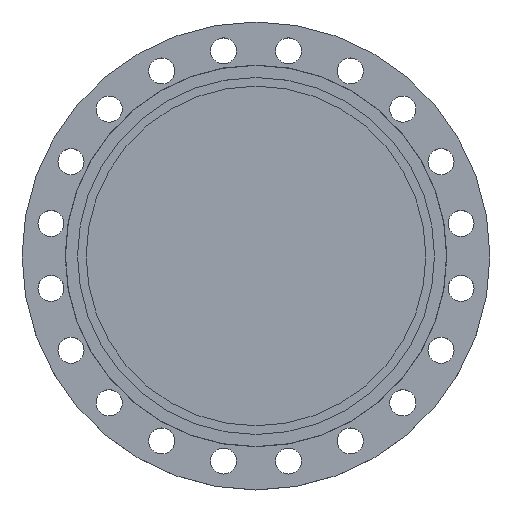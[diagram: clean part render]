
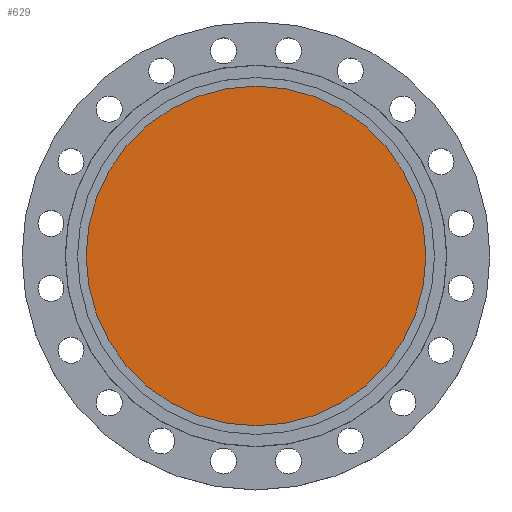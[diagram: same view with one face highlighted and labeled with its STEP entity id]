
A CAD part, top view. The second image highlights one B-rep face of the part: STEP entity #629.
In plain terms, the highlighted planar face has unit normal (0, 0, 1).
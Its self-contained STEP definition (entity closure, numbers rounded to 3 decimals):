
#2 = DIRECTION ( 'NONE',  ( -1., 0., 0. ) ) ;
#139 = FACE_OUTER_BOUND ( 'NONE', #1030, .T. ) ;
#145 = DIRECTION ( 'NONE',  ( -1., 0., 0. ) ) ;
#199 = AXIS2_PLACEMENT_3D ( 'NONE', #1411, #2045, #630 ) ;
#243 = VERTEX_POINT ( 'NONE', #515 ) ;
#515 = CARTESIAN_POINT ( 'NONE',  ( 274., 0., 0. ) ) ;
#629 = ADVANCED_FACE ( 'NONE', ( #139 ), #788, .T. ) ;
#630 = DIRECTION ( 'NONE',  ( 1., 0., 0. ) ) ;
#788 = PLANE ( 'NONE',  #199 ) ;
#857 = CARTESIAN_POINT ( 'NONE',  ( 0., 0., 0. ) ) ;
#968 = CARTESIAN_POINT ( 'NONE',  ( 0., 0., 0. ) ) ;
#1030 = EDGE_LOOP ( 'NONE', ( #1983, #1962 ) ) ;
#1059 = AXIS2_PLACEMENT_3D ( 'NONE', #968, #1600, #145 ) ;
#1124 = CIRCLE ( 'NONE', #1804, 274. ) ;
#1159 = CARTESIAN_POINT ( 'NONE',  ( -274., 0., 0. ) ) ;
#1217 = CIRCLE ( 'NONE', #1059, 274. ) ;
#1225 = EDGE_CURVE ( 'NONE', #243, #1486, #1217, .T. ) ;
#1411 = CARTESIAN_POINT ( 'NONE',  ( 0., 0., 0. ) ) ;
#1464 = EDGE_CURVE ( 'NONE', #1486, #243, #1124, .T. ) ;
#1472 = DIRECTION ( 'NONE',  ( 0., 0., -1. ) ) ;
#1486 = VERTEX_POINT ( 'NONE', #1159 ) ;
#1600 = DIRECTION ( 'NONE',  ( 0., 0., -1. ) ) ;
#1804 = AXIS2_PLACEMENT_3D ( 'NONE', #857, #1472, #2 ) ;
#1962 = ORIENTED_EDGE ( 'NONE', *, *, #1225, .F. ) ;
#1983 = ORIENTED_EDGE ( 'NONE', *, *, #1464, .F. ) ;
#2045 = DIRECTION ( 'NONE',  ( 0., 0., 1. ) ) ;
